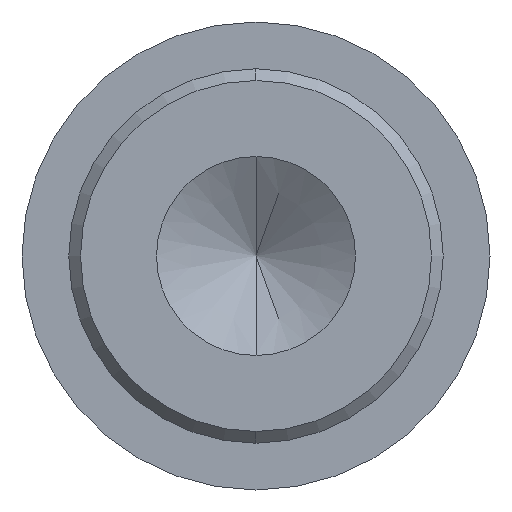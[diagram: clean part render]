
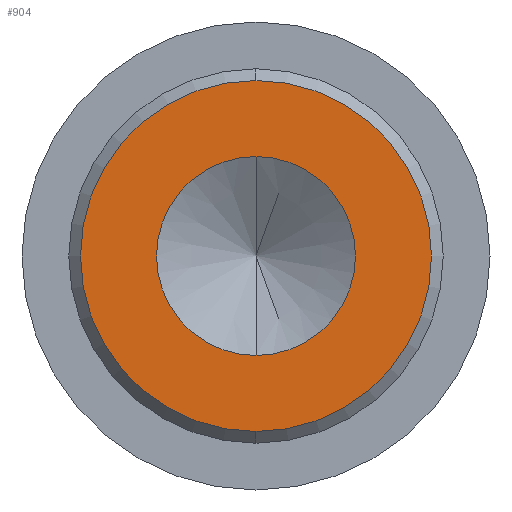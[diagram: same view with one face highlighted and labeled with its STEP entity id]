
A CAD part, left-side view. The second image highlights one B-rep face of the part: STEP entity #904.
In plain terms, the highlighted planar face has unit normal (-1, 0, 0).
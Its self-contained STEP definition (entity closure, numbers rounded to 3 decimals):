
#31 = ORIENTED_EDGE ( 'NONE', *, *, #963, .T. ) ;
#34 = ORIENTED_EDGE ( 'NONE', *, *, #968, .T. ) ;
#35 = ORIENTED_EDGE ( 'NONE', *, *, #886, .F. ) ;
#43 = ORIENTED_EDGE ( 'NONE', *, *, #943, .F. ) ;
#102 = VERTEX_POINT ( 'NONE', #287 ) ;
#132 = VERTEX_POINT ( 'NONE', #275 ) ;
#139 = VERTEX_POINT ( 'NONE', #279 ) ;
#162 = VERTEX_POINT ( 'NONE', #262 ) ;
#206 = DIRECTION ( 'NONE',  ( 0., 0., 1. ) ) ;
#207 = DIRECTION ( 'NONE',  ( -1., 0., 0. ) ) ;
#208 = CARTESIAN_POINT ( 'NONE',  ( -26.9, 0., 0. ) ) ;
#262 = CARTESIAN_POINT ( 'NONE',  ( -26.9, 0., 4.25 ) ) ;
#275 = CARTESIAN_POINT ( 'NONE',  ( -26.9, 0., 7.5 ) ) ;
#279 = CARTESIAN_POINT ( 'NONE',  ( -26.9, 0., -4.25 ) ) ;
#287 = CARTESIAN_POINT ( 'NONE',  ( -26.9, 0., -7.5 ) ) ;
#312 = DIRECTION ( 'NONE',  ( 1., 0., 0. ) ) ;
#313 = DIRECTION ( 'NONE',  ( 0., 0., -1. ) ) ;
#327 = PLANE ( 'NONE',  #820 ) ;
#328 = FACE_OUTER_BOUND ( 'NONE', #483, .T. ) ;
#329 = FACE_BOUND ( 'NONE', #491, .T. ) ;
#339 = CARTESIAN_POINT ( 'NONE',  ( -26.9, 0., 0. ) ) ;
#483 = EDGE_LOOP ( 'NONE', ( #34, #31 ) ) ;
#491 = EDGE_LOOP ( 'NONE', ( #43, #35 ) ) ;
#517 = DIRECTION ( 'NONE',  ( 0., 0., 1. ) ) ;
#525 = DIRECTION ( 'NONE',  ( 0., 0., 1. ) ) ;
#569 = DIRECTION ( 'NONE',  ( -1., 0., 0. ) ) ;
#570 = CARTESIAN_POINT ( 'NONE',  ( -26.9, 0., 0. ) ) ;
#581 = DIRECTION ( 'NONE',  ( 0., 0., 1. ) ) ;
#582 = DIRECTION ( 'NONE',  ( -1., 0., 0. ) ) ;
#671 = CARTESIAN_POINT ( 'NONE',  ( -26.9, 0., 0. ) ) ;
#681 = DIRECTION ( 'NONE',  ( -1., 0., 0. ) ) ;
#684 = CARTESIAN_POINT ( 'NONE',  ( -26.9, 0., 0. ) ) ;
#706 = AXIS2_PLACEMENT_3D ( 'NONE', #671, #582, #581 ) ;
#717 = CIRCLE ( 'NONE', #706, 7.5 ) ;
#723 = CIRCLE ( 'NONE', #727, 7.5 ) ;
#727 = AXIS2_PLACEMENT_3D ( 'NONE', #570, #569, #517 ) ;
#770 = CIRCLE ( 'NONE', #775, 4.25 ) ;
#775 = AXIS2_PLACEMENT_3D ( 'NONE', #684, #681, #525 ) ;
#787 = CIRCLE ( 'NONE', #793, 4.25 ) ;
#793 = AXIS2_PLACEMENT_3D ( 'NONE', #208, #207, #206 ) ;
#820 = AXIS2_PLACEMENT_3D ( 'NONE', #339, #312, #313 ) ;
#886 = EDGE_CURVE ( 'NONE', #139, #162, #787, .T. ) ;
#904 = ADVANCED_FACE ( 'NONE', ( #329, #328 ), #327, .F. ) ;
#943 = EDGE_CURVE ( 'NONE', #162, #139, #770, .T. ) ;
#963 = EDGE_CURVE ( 'NONE', #132, #102, #717, .T. ) ;
#968 = EDGE_CURVE ( 'NONE', #102, #132, #723, .T. ) ;
